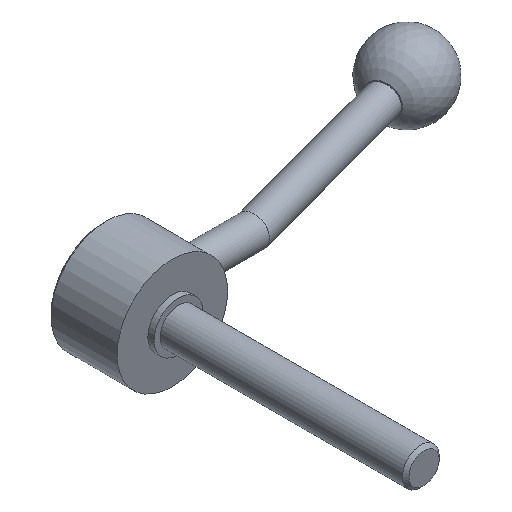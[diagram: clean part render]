
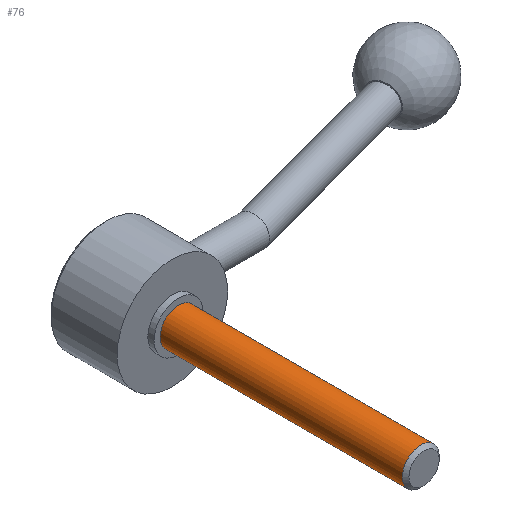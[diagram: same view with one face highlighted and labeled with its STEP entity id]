
A CAD part, isometric view. The second image highlights one B-rep face of the part: STEP entity #76.
In plain terms, the highlighted cylindrical face has radius 6 mm (diameter 12 mm), a full revolution.
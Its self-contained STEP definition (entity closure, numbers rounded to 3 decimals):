
#76 = ADVANCED_FACE( '', ( #94, #95 ), #96, .T. );
#94 = FACE_OUTER_BOUND( '', #138, .T. );
#95 = FACE_OUTER_BOUND( '', #139, .T. );
#96 = CYLINDRICAL_SURFACE( '', #140, 6. );
#138 = EDGE_LOOP( '', ( #184 ) );
#139 = EDGE_LOOP( '', ( #185 ) );
#140 = AXIS2_PLACEMENT_3D( '', #186, #187, #188 );
#184 = ORIENTED_EDGE( '', *, *, #254, .F. );
#185 = ORIENTED_EDGE( '', *, *, #255, .T. );
#186 = CARTESIAN_POINT( '', ( 0., -80., 0. ) );
#187 = DIRECTION( '', ( 0., 1., 0. ) );
#188 = DIRECTION( '', ( 0., 0., -1. ) );
#254 = EDGE_CURVE( '', #270, #270, #271, .T. );
#255 = EDGE_CURVE( '', #272, #272, #273, .T. );
#270 = VERTEX_POINT( '', #298 );
#271 = CIRCLE( '', #299, 6. );
#272 = VERTEX_POINT( '', #300 );
#273 = CIRCLE( '', #301, 6. );
#298 = CARTESIAN_POINT( '', ( 0., -78.927, -6. ) );
#299 = AXIS2_PLACEMENT_3D( '', #400, #401, #402 );
#300 = CARTESIAN_POINT( '', ( 0., 0., -6. ) );
#301 = AXIS2_PLACEMENT_3D( '', #403, #404, #405 );
#400 = CARTESIAN_POINT( '', ( 0., -78.927, 0. ) );
#401 = DIRECTION( '', ( 0., -1., 0. ) );
#402 = DIRECTION( '', ( 0., 0., -1. ) );
#403 = CARTESIAN_POINT( '', ( 0., 0., 0. ) );
#404 = DIRECTION( '', ( 0., -1., 0. ) );
#405 = DIRECTION( '', ( 0., 0., -1. ) );
